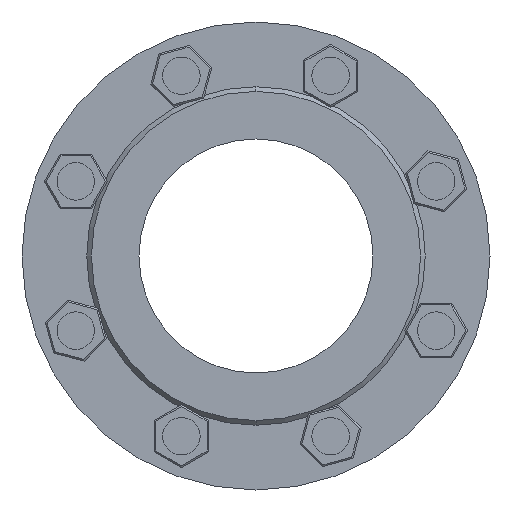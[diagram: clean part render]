
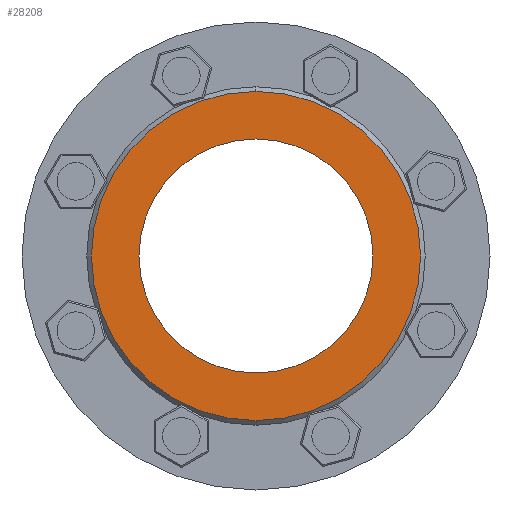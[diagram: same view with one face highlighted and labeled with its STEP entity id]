
A CAD part, left-side view. The second image highlights one B-rep face of the part: STEP entity #28208.
In plain terms, the highlighted planar face has unit normal (-1, 0, 0).
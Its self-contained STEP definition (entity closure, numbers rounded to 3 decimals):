
#194 = AXIS2_PLACEMENT_3D ( 'NONE', #15763, #25165, #25322 ) ;
#433 = CIRCLE ( 'NONE', #22549, 75. ) ;
#538 = ORIENTED_EDGE ( 'NONE', *, *, #7010, .T. ) ;
#1108 = ORIENTED_EDGE ( 'NONE', *, *, #29438, .F. ) ;
#2118 = EDGE_LOOP ( 'NONE', ( #538, #25112 ) ) ;
#3615 = CARTESIAN_POINT ( 'NONE',  ( 0., 0., -105.5 ) ) ;
#4952 = VERTEX_POINT ( 'NONE', #17682 ) ;
#5109 = AXIS2_PLACEMENT_3D ( 'NONE', #17138, #14505, #14979 ) ;
#5422 = CARTESIAN_POINT ( 'NONE',  ( 0., 0., 75. ) ) ;
#5490 = DIRECTION ( 'NONE',  ( 0., 0., 1. ) ) ;
#5613 = CIRCLE ( 'NONE', #22796, 105.5 ) ;
#5726 = CARTESIAN_POINT ( 'NONE',  ( 0., 0., 0. ) ) ;
#6387 = FACE_BOUND ( 'NONE', #14217, .T. ) ;
#6536 = FACE_OUTER_BOUND ( 'NONE', #2118, .T. ) ;
#6694 = PLANE ( 'NONE',  #194 ) ;
#7010 = EDGE_CURVE ( 'NONE', #23124, #23724, #12777, .T. ) ;
#10504 = CIRCLE ( 'NONE', #5109, 75. ) ;
#11690 = EDGE_CURVE ( 'NONE', #23724, #23124, #5613, .T. ) ;
#12026 = VERTEX_POINT ( 'NONE', #5422 ) ;
#12472 = DIRECTION ( 'NONE',  ( 0., 0., 1. ) ) ;
#12777 = CIRCLE ( 'NONE', #29006, 105.5 ) ;
#14147 = ORIENTED_EDGE ( 'NONE', *, *, #17576, .F. ) ;
#14217 = EDGE_LOOP ( 'NONE', ( #1108, #14147 ) ) ;
#14379 = CARTESIAN_POINT ( 'NONE',  ( 0., 0., 0. ) ) ;
#14505 = DIRECTION ( 'NONE',  ( -1., 0., 0. ) ) ;
#14979 = DIRECTION ( 'NONE',  ( 0., 0., 1. ) ) ;
#15763 = CARTESIAN_POINT ( 'NONE',  ( 0., 0., 0. ) ) ;
#17138 = CARTESIAN_POINT ( 'NONE',  ( 0., 0., 0. ) ) ;
#17190 = DIRECTION ( 'NONE',  ( -1., 0., 0. ) ) ;
#17267 = DIRECTION ( 'NONE',  ( -1., 0., 0. ) ) ;
#17576 = EDGE_CURVE ( 'NONE', #4952, #12026, #433, .T. ) ;
#17682 = CARTESIAN_POINT ( 'NONE',  ( 0., 0., -75. ) ) ;
#19494 = CARTESIAN_POINT ( 'NONE',  ( 0., 0., 0. ) ) ;
#20921 = CARTESIAN_POINT ( 'NONE',  ( 0., 0., 105.5 ) ) ;
#22549 = AXIS2_PLACEMENT_3D ( 'NONE', #14379, #24251, #28391 ) ;
#22796 = AXIS2_PLACEMENT_3D ( 'NONE', #19494, #17190, #5490 ) ;
#23124 = VERTEX_POINT ( 'NONE', #3615 ) ;
#23724 = VERTEX_POINT ( 'NONE', #20921 ) ;
#24251 = DIRECTION ( 'NONE',  ( -1., 0., 0. ) ) ;
#25112 = ORIENTED_EDGE ( 'NONE', *, *, #11690, .T. ) ;
#25165 = DIRECTION ( 'NONE',  ( 1., 0., 0. ) ) ;
#25322 = DIRECTION ( 'NONE',  ( 0., 0., -1. ) ) ;
#28208 = ADVANCED_FACE ( 'NONE', ( #6387, #6536 ), #6694, .F. ) ;
#28391 = DIRECTION ( 'NONE',  ( 0., 0., 1. ) ) ;
#29006 = AXIS2_PLACEMENT_3D ( 'NONE', #5726, #17267, #12472 ) ;
#29438 = EDGE_CURVE ( 'NONE', #12026, #4952, #10504, .T. ) ;
